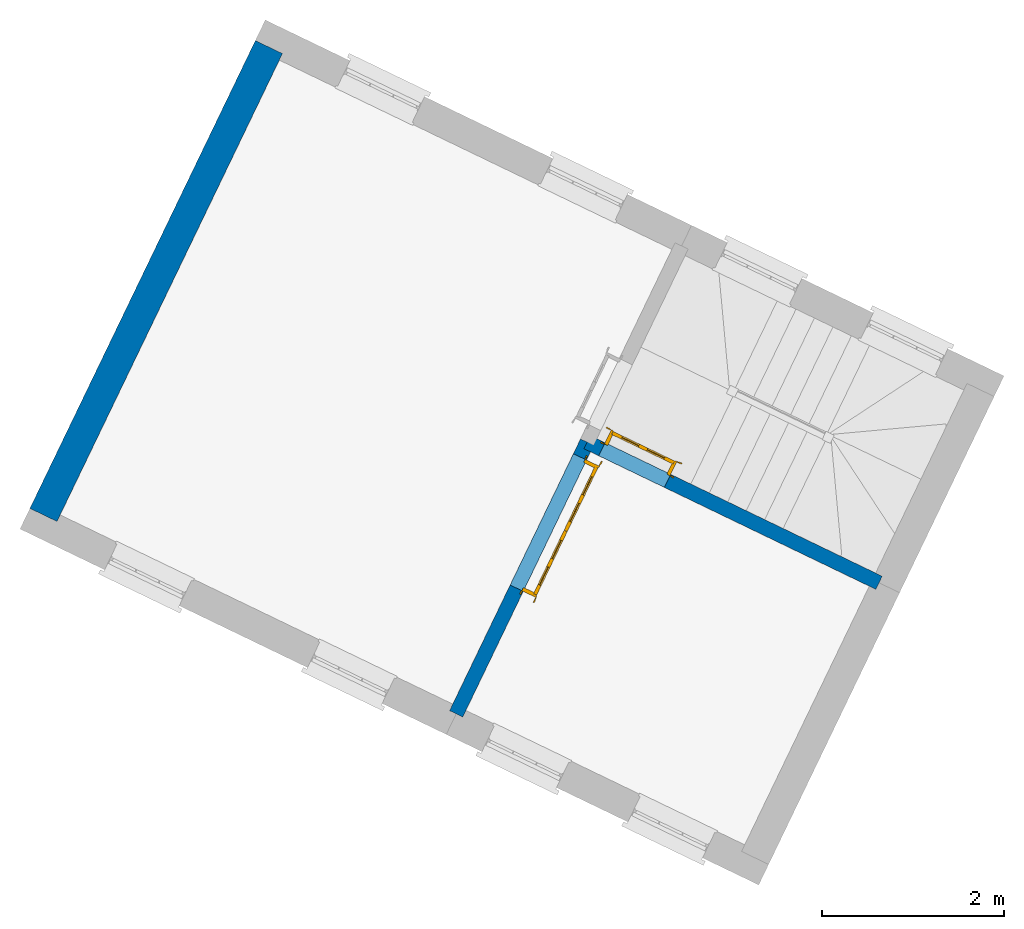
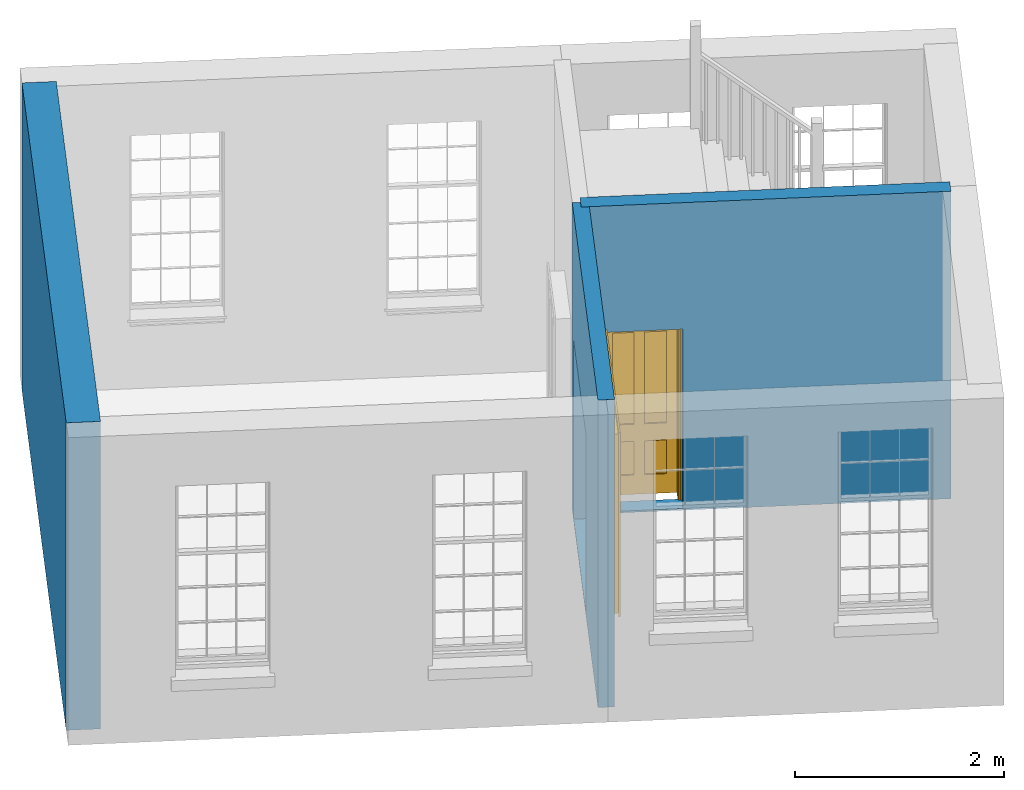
# One storey, part 2 of 3: 3 walls, 2 doors, 2 openings.
"""IFC4 building model written with IfcOpenShell, lengths in metres."""

from ifc_helpers import new_model, si_unit, frame, origin, origin_with_axes, place, context, subcontext, project, spatial, polyline, outline, extrude, faceted_brep, source, transform, mapped, material, layer, layer_set, layer_usage, type_object, type_shapes, element, fill, save


model = new_model("IFC4")

# Units and contexts
model_context = context("Model", 3, world=origin_with_axes())
body_context = subcontext(model_context, "Body", "Model", "MODEL_VIEW")
ifc_project = project(units=[si_unit("PLANEANGLEUNIT", "RADIAN"), si_unit("MASSUNIT", "GRAM", prefix="KILO"), si_unit("FORCEUNIT", "NEWTON", prefix="KILO"), si_unit("LENGTHUNIT", "METRE"), si_unit("AREAUNIT", "SQUARE_METRE"), si_unit("VOLUMEUNIT", "CUBIC_METRE")], contexts=[model_context, model_context])

# Sites, building, storey
site_1_placement = place(None, origin_with_axes())
site_1 = spatial("IfcSite", under=ifc_project, at=site_1_placement, Name="Tamar")
site_2_placement = place(site_1_placement, origin_with_axes())
site_2 = spatial("IfcSite", under=site_1, at=site_2_placement, Name="Site plot-1", CompositionType="ELEMENT")
building_placement = place(None, origin_with_axes())
building = spatial("IfcBuilding", under=site_2, at=building_placement, Name="Building plot-1", CompositionType="ELEMENT")
storey_placement = place(None, frame((0.0, 0.0, 29.6), z_axis=(0.0, 0.0, 1.0), x_axis=(1.0, 0.0, 0.0)))
storey = spatial("IfcBuildingStorey", under=building, at=storey_placement, Name="plot-1 1", CompositionType="ELEMENT", Elevation=29.6)

# Wall
ifc_material_1 = material(Name="Masonry")
ifc_layer_1 = layer(ifc_material_1, 0.33, ventilated=False)
ifc_layer_set_1 = layer_set([ifc_layer_1], Name="party_0.08_0.25")
ifc_layer_usage_1 = layer_usage(ifc_layer_set_1, "AXIS2", "POSITIVE", -0.25)
wall_type_1 = type_object("IfcWallType", Name="party_0.08_0.25", PredefinedType="SOLIDWALL", material=ifc_layer_set_1)
wall_1_placement = place(storey_placement, frame((221.848736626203, 299.862672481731, 0.0), z_axis=(0.0, 0.0, 1.0), x_axis=(-0.434117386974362, -0.900856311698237, 0.0)))
element("IfcWall", 1, at=wall_1_placement, inside=storey, type_object=wall_type_1, material=ifc_layer_usage_1, Name="party", context=body_context, shape_type="SweptSolid", body=[
    extrude(outline(polyline([(-2.43863115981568e-14, 0.0799999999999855), (1.03403822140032e-14, -0.249999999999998), (5.70093486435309, -0.249999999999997), (5.70093486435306, 0.0799999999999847), (-2.43863115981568e-14, 0.0799999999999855)])), origin_with_axes(), (0.0, 0.0, 1.0), 3.6),
])

# Wall, opening, door
ifc_material_2 = material(Name="Masonry")
ifc_layer_2 = layer(ifc_material_2, 0.16, ventilated=False)
ifc_layer_set_2 = layer_set([ifc_layer_2], Name="interior_0.08_0.08")
ifc_layer_usage_2 = layer_usage(ifc_layer_set_2, "AXIS2", "POSITIVE", -0.08)
wall_type_2 = type_object("IfcWallType", Name="interior_0.08_0.08", PredefinedType="SOLIDWALL", material=ifc_layer_set_2)
wall_2_placement = place(storey_placement, frame((225.264320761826, 295.563557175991, 0.0), z_axis=(0.0, 0.0, 1.0), x_axis=(0.900856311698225, -0.434117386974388, 0.0)))
wall_2 = element("IfcWall", 2, at=wall_2_placement, inside=storey, type_object=wall_type_2, material=ifc_layer_usage_2, Name="interior", context=body_context, shape_type="SweptSolid", body=[
    extrude(outline(polyline([(-1.33888319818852e-14, 0.0800000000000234), (1.3343507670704e-14, -0.0800000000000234), (3.55672877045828, -0.0800000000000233), (3.55672877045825, 0.0800000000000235), (-1.33888319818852e-14, 0.0800000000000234)])), origin_with_axes(), (0.0, 0.0, 1.0), 3.6),
])
opening_1_placement = place(wall_2_placement, frame((0.179999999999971, 0.0, 0.0199999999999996)))
opening_1 = element("IfcOpeningElement", 3, at=opening_1_placement, cuts=wall_2, Name="My Opening", ObjectType="Opening", context=body_context, shape_type="SweptSolid", body=[
    extrude(outline(polyline([(0.0, -0.0999999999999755), (0.800000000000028, -0.100000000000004), (0.800000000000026, 1.1), (-2.44249065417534e-15, 1.10000000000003), (0.0, -0.0999999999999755)])), origin_with_axes(), (0.0, 0.0, 1.0), 2.1),
])
door_type_1 = type_object("IfcDoorType", Name="door_inside", OperationType="SINGLE_SWING_LEFT", PredefinedType="NOTDEFINED")
shared_shape_1 = source(origin(), body_context, "Body", "Brep", [
    faceted_brep([(0.773, 0.33, 1.895), (0.66, 0.33, 1.895), (0.66, 0.33, 2.073), (0.773, 0.33, 2.073), (0.773, 0.33, 0.82), (0.66, 0.33, 0.82), (0.45, 0.33, 1.895), (0.45, 0.33, 2.073), (0.773, 0.33, 0.62), (0.66, 0.33, 0.62), (0.66, 0.315, 0.82), (0.66, 0.315, 1.895), (0.45, 0.315, 1.895), (0.35, 0.33, 1.895), (0.35, 0.33, 2.073), (0.773, 0.33, 0.225), (0.66, 0.33, 0.225), (0.45, 0.33, 0.62), (0.45, 0.33, 0.82), (0.45, 0.315, 0.82), (0.35, 0.33, 0.82), (0.14, 0.33, 2.073), (0.14, 0.33, 1.895), (0.773, 0.33, 0.0), (0.66, 0.33, 0.0), (0.66, 0.315, 0.225), (0.66, 0.315, 0.62), (0.45, 0.315, 0.62), (0.35, 0.33, 0.62), (0.35, 0.315, 0.82), (0.35, 0.315, 1.895), (0.14, 0.315, 1.895), (0.027, 0.33, 2.073), (0.027, 0.33, 1.895), (0.773, 0.292, 0.0), (0.66, 0.292, 0.0), (0.45, 0.33, 0.0), (0.45, 0.33, 0.225), (0.45, 0.315, 0.225), (0.35, 0.33, 0.225), (0.14, 0.33, 0.82), (0.14, 0.33, 0.62), (0.14, 0.315, 0.82), (0.027, 0.33, 0.82), (0.773, 0.292, 0.225), (0.66, 0.292, 0.225), (0.45, 0.292, 0.0), (0.35, 0.33, 0.0), (0.35, 0.315, 0.225), (0.35, 0.315, 0.62), (0.14, 0.315, 0.62), (0.027, 0.33, 0.62), (0.773, 0.292, 0.62), (0.66, 0.292, 0.62), (0.45, 0.292, 0.225), (0.35, 0.292, 0.0), (0.14, 0.33, 0.225), (0.14, 0.33, 0.0), (0.14, 0.315, 0.225), (0.027, 0.33, 0.225), (0.773, 0.292, 0.82), (0.66, 0.292, 0.82), (0.66, 0.307, 0.62), (0.66, 0.307, 0.225), (0.45, 0.307, 0.225), (0.35, 0.292, 0.225), (0.14, 0.292, 0.0), (0.027, 0.33, 0.0), (0.773, 0.292, 1.895), (0.66, 0.292, 1.895), (0.45, 0.292, 0.62), (0.45, 0.292, 0.82), (0.45, 0.307, 0.62), (0.35, 0.292, 0.62), (0.14, 0.292, 0.225), (0.027, 0.292, 0.0), (0.773, 0.292, 2.073), (0.66, 0.292, 2.073), (0.66, 0.307, 1.895), (0.66, 0.307, 0.82), (0.45, 0.307, 0.82), (0.35, 0.292, 0.82), (0.35, 0.307, 0.62), (0.35, 0.307, 0.225), (0.14, 0.307, 0.225), (0.027, 0.292, 0.225), (0.45, 0.292, 1.895), (0.45, 0.292, 2.073), (0.45, 0.307, 1.895), (0.35, 0.292, 1.895), (0.14, 0.292, 0.82), (0.14, 0.292, 0.62), (0.14, 0.307, 0.62), (0.027, 0.292, 0.62), (0.35, 0.292, 2.073), (0.35, 0.307, 1.895), (0.35, 0.307, 0.82), (0.14, 0.307, 0.82), (0.027, 0.292, 0.82), (0.14, 0.292, 2.073), (0.14, 0.292, 1.895), (0.14, 0.307, 1.895), (0.027, 0.292, 1.895), (0.027, 0.292, 2.073), (0.02, 0.335, 0.0), (0.005, 0.34, 0.0), (0.005, 0.34, 2.095), (0.02, 0.335, 2.08), (0.02, 0.33, 0.0), (0.0, 0.335, 0.0), (0.0, 0.335, 2.1), (0.795, 0.34, 2.095), (0.78, 0.335, 2.08), (0.02, 0.33, 2.08), (0.0, 0.33, 0.0), (-0.032, 0.345, 0.0), (-0.032, 0.345, 2.132), (0.8, 0.335, 2.1), (0.795, 0.34, 0.0), (0.78, 0.335, 0.0), (0.78, 0.33, 2.08), (0.04, 0.29, 0.0), (0.025, 0.29, 0.0), (0.025, 0.29, 2.075), (0.04, 0.29, 2.06), (-0.04, 0.34, 0.0), (-0.04, 0.34, 2.14), (0.832, 0.345, 2.132), (0.8, 0.335, 0.0), (0.78, 0.33, 0.0), (0.8, 0.33, 0.0), (0.86, 0.33, 0.0), (0.86, 0.33, 2.16), (0.8, 0.33, 2.1), (-0.06, 0.33, 2.16), (0.0, 0.33, 2.1), (-0.06, 0.33, 0.0), (-0.04, 0.345, 0.0), (-0.04, 0.345, 2.14), (0.84, 0.34, 2.14), (0.832, 0.345, 0.0), (0.84, 0.34, 0.0), (0.86, 0.345, 0.0), (0.86, 0.345, 2.16), (-0.06, 0.345, 2.16), (-0.06, 0.345, 0.0), (0.84, 0.345, 0.0), (0.84, 0.345, 2.14), (-0.025, 0.155, 0.0), (-0.025, 0.16, 0.0), (-0.025, 0.16, 2.125), (-0.025, 0.155, 2.125), (-0.017, 0.155, 0.0), (-0.017, 0.155, 2.117), (0.825, 0.16, 2.125), (0.825, 0.155, 2.125), (0.825, 0.155, 0.0), (0.845, 0.155, 0.0), (-0.045, 0.155, 2.145), (-0.045, 0.155, 0.0), (0.845, 0.155, 2.145), (0.015, 0.165, 0.0), (0.015, 0.165, 2.085), (0.817, 0.155, 2.117), (0.825, 0.16, 0.0), (0.845, 0.17, 0.0), (0.845, 0.17, 2.145), (-0.045, 0.17, 2.145), (-0.045, 0.17, 0.0), (0.02, 0.16, 0.0), (0.02, 0.16, 2.08), (0.785, 0.165, 2.085), (0.817, 0.155, 0.0), (0.8, 0.17, 0.0), (0.8, 0.17, 2.1), (0.0, 0.17, 2.1), (0.0, 0.17, 0.0), (0.035, 0.165, 0.0), (0.035, 0.165, 2.065), (0.78, 0.16, 2.08), (0.785, 0.165, 0.0), (0.775, 0.29, 2.075), (0.76, 0.29, 2.06), (0.035, 0.17, 2.065), (0.035, 0.17, 0.0), (0.765, 0.165, 2.065), (0.78, 0.16, 0.0), (0.765, 0.17, 0.0), (0.765, 0.17, 2.065), (0.765, 0.165, 0.0), (0.04, 0.17, 2.06), (0.04, 0.17, 0.0), (0.76, 0.17, 2.06), (0.76, 0.17, 0.0), (0.76, 0.29, 0.0), (0.775, 0.29, 0.0), (0.025, 0.33, 0.0), (0.025, 0.33, 2.075), (0.775, 0.33, 0.0), (0.775, 0.33, 2.075)], [[[0, 1, 2, 3]], [[1, 0, 4, 5]], [[1, 6, 7, 2]], [[8, 9, 5, 4]], [[1, 5, 10, 11]], [[6, 1, 11, 12]], [[6, 13, 14, 7]], [[15, 16, 9, 8]], [[9, 17, 18, 5]], [[5, 18, 19, 10]], [[10, 19, 12, 11]], [[18, 6, 12, 19]], [[18, 20, 13, 6]], [[21, 14, 13, 22]], [[23, 24, 16, 15]], [[9, 16, 25, 26]], [[17, 9, 26, 27]], [[17, 28, 20, 18]], [[13, 20, 29, 30]], [[22, 13, 30, 31]], [[32, 21, 22, 33]], [[34, 35, 24, 23]], [[24, 36, 37, 16]], [[16, 37, 38, 25]], [[25, 38, 27, 26]], [[37, 17, 27, 38]], [[37, 39, 28, 17]], [[40, 20, 28, 41]], [[20, 40, 42, 29]], [[31, 30, 29, 42]], [[40, 22, 31, 42]], [[33, 22, 40, 43]], [[35, 34, 44, 45]], [[35, 46, 36, 24]], [[36, 47, 39, 37]], [[28, 39, 48, 49]], [[41, 28, 49, 50]], [[43, 40, 41, 51]], [[45, 44, 52, 53]], [[46, 35, 45, 54]], [[46, 55, 47, 36]], [[56, 39, 47, 57]], [[39, 56, 58, 48]], [[50, 49, 48, 58]], [[56, 41, 50, 58]], [[51, 41, 56, 59]], [[53, 52, 60, 61]], [[45, 53, 62, 63]], [[54, 45, 63, 64]], [[55, 46, 54, 65]], [[55, 66, 57, 47]], [[59, 56, 57, 67]], [[61, 60, 68, 69]], [[70, 53, 61, 71]], [[53, 70, 72, 62]], [[72, 64, 63, 62]], [[70, 54, 64, 72]], [[65, 54, 70, 73]], [[65, 74, 66, 55]], [[67, 57, 66, 75]], [[69, 68, 76, 77]], [[61, 69, 78, 79]], [[71, 61, 79, 80]], [[73, 70, 71, 81]], [[65, 73, 82, 83]], [[74, 65, 83, 84]], [[74, 85, 75, 66]], [[86, 69, 77, 87]], [[69, 86, 88, 78]], [[88, 80, 79, 78]], [[86, 71, 80, 88]], [[81, 71, 86, 89]], [[73, 81, 90, 91]], [[73, 91, 92, 82]], [[83, 82, 92, 84]], [[91, 74, 84, 92]], [[91, 93, 85, 74]], [[89, 86, 87, 94]], [[81, 89, 95, 96]], [[90, 81, 96, 97]], [[90, 98, 93, 91]], [[94, 99, 100, 89]], [[89, 100, 101, 95]], [[101, 97, 96, 95]], [[100, 90, 97, 101]], [[100, 102, 98, 90]], [[99, 103, 102, 100]], [[32, 103, 99, 21]], [[102, 103, 32, 33]], [[98, 102, 33, 43]], [[21, 99, 94, 14]], [[94, 87, 7, 14]], [[7, 87, 77, 2]], [[76, 3, 2, 77]], [[43, 51, 93, 98]], [[51, 59, 85, 93]], [[67, 75, 85, 59]], [[34, 23, 15, 44]], [[44, 15, 8, 52]], [[52, 8, 4, 60]], [[0, 68, 60, 4]], [[0, 3, 76, 68]], [[104, 105, 106, 107]], [[104, 108, 109, 105]], [[105, 109, 110, 106]], [[107, 106, 111, 112]], [[107, 113, 108, 104]], [[114, 109, 108]], [[109, 115, 116, 110]], [[106, 110, 117, 111]], [[112, 111, 118, 119]], [[113, 107, 112, 120]], [[121, 122, 123, 124]], [[115, 109, 114, 125]], [[115, 125, 126, 116]], [[110, 116, 127, 117]], [[111, 117, 128, 118]], [[118, 128, 129, 119]], [[120, 112, 119, 129]], [[130, 129, 128]], [[130, 131, 132, 133]], [[133, 132, 134, 135]], [[135, 134, 136, 114]], [[136, 125, 114]], [[125, 137, 138, 126]], [[116, 126, 139, 127]], [[117, 127, 140, 128]], [[141, 130, 128, 140]], [[131, 130, 141]], [[131, 142, 143, 132]], [[132, 143, 144, 134]], [[134, 144, 145, 136]], [[137, 125, 136, 145]], [[143, 142, 146]], [[143, 146, 147]], [[137, 145, 144]], [[143, 147, 138]], [[138, 137, 144]], [[143, 138, 144]], [[126, 138, 147, 139]], [[127, 139, 141, 140]], [[142, 131, 141, 146]], [[139, 147, 146, 141]], [[148, 149, 150, 151]], [[149, 152, 153, 150]], [[151, 150, 154, 155]], [[155, 156, 157]], [[158, 159, 148]], [[158, 148, 151]], [[155, 157, 160]], [[158, 151, 155]], [[155, 160, 158]], [[152, 161, 162, 153]], [[150, 153, 163, 154]], [[155, 154, 164, 156]], [[156, 164, 165, 157]], [[157, 165, 166, 160]], [[160, 166, 167, 158]], [[158, 167, 168, 159]], [[161, 169, 170, 162]], [[153, 162, 171, 163]], [[154, 163, 172, 164]], [[165, 164, 173]], [[165, 173, 174, 166]], [[166, 174, 175, 167]], [[167, 175, 176, 168]], [[169, 177, 178, 170]], [[162, 170, 179, 171]], [[163, 171, 180, 172]], [[172, 180, 173, 164]], [[124, 123, 181, 182]], [[183, 178, 177, 184]], [[170, 178, 185, 179]], [[171, 179, 186, 180]], [[187, 173, 180]], [[185, 188, 187, 189]], [[188, 185, 178, 183]], [[179, 185, 189, 186]], [[189, 187, 180, 186]], [[190, 183, 184, 191]], [[192, 188, 183, 190]], [[191, 184, 122, 121]], [[124, 190, 191, 121]], [[193, 187, 188, 192]], [[182, 192, 190, 124]], [[184, 176, 122]], [[194, 195, 187, 193]], [[192, 182, 194, 193]], [[161, 176, 184]], [[114, 108, 122, 176]], [[173, 187, 195]], [[152, 149, 176, 161]], [[169, 161, 184, 177]], [[196, 122, 108]], [[176, 175, 135, 114]], [[173, 195, 129, 130]], [[176, 149, 168]], [[123, 122, 196, 197]], [[196, 108, 113, 197]], [[175, 174, 133, 135]], [[198, 129, 195]], [[133, 174, 173, 130]], [[159, 168, 149, 148]], [[181, 123, 197, 199]], [[197, 113, 120, 199]], [[199, 120, 129, 198]], [[195, 181, 199, 198]], [[195, 194, 182, 181]]]),
])
type_shapes(door_type_1, [shared_shape_1])
door_1_placement = place(storey_placement, frame((225.383063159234, 295.395330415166, 0.0199999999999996), z_axis=(0.0, 0.0, 1.0), x_axis=(0.720685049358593, -0.347293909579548, 0.0)))
door_1 = element("IfcDoor", 4, at=door_1_placement, inside=storey, type_object=door_type_1, Name="kitchen inside door", OverallHeight=2.1, OverallWidth=0.8, context=body_context, shape_type="MappedRepresentation", body=[
    mapped(shared_shape_1, transform((0.0, 0.0, 0.0), scale=1.0)),
])
fill(opening_1, door_1)

wall_3_placement = place(storey_placement, frame((225.264320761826, 295.563557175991, 0.0), z_axis=(0.0, 0.0, 1.0), x_axis=(-0.434117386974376, -0.900856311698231, 0.0)))
wall_3 = element("IfcWall", 5, at=wall_3_placement, inside=storey, type_object=wall_type_2, material=ifc_layer_usage_2, Name="interior", context=body_context, shape_type="SweptSolid", body=[
    extrude(outline(polyline([(2.56358969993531e-14, 0.0800000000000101), (-2.56456941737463e-14, -0.0800000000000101), (3.3108141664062, -0.0800000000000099), (3.31081416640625, 0.0800000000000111), (2.56358969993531e-14, 0.0800000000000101)])), origin_with_axes(), (0.0, 0.0, 1.0), 3.6),
])
opening_2_placement = place(wall_3_placement, frame((0.180000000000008, 0.0, 0.0199999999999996)))
opening_2 = element("IfcOpeningElement", 6, at=opening_2_placement, cuts=wall_3, Name="My Opening", ObjectType="Opening", context=body_context, shape_type="SweptSolid", body=[
    extrude(outline(polyline([(0.0, -0.0999999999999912), (1.59999999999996, -0.0999999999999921), (1.59999999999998, 1.09999999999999), (2.56461518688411e-14, 1.09999999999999), (0.0, -0.0999999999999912)])), origin_with_axes(), (0.0, 0.0, 1.0), 2.1),
])
door_type_2 = type_object("IfcDoorType", Name="door_inside_double", OperationType="SINGLE_SWING_LEFT", PredefinedType="NOTDEFINED")
shared_shape_2 = source(origin(), body_context, "Body", "Brep", [
    faceted_brep([(0.14, 0.307, 1.895), (0.14, 0.307, 0.82), (0.363, 0.307, 0.82), (0.363, 0.307, 1.895), (0.14, 0.292, 1.895), (0.14, 0.292, 0.82), (0.363, 0.292, 0.82), (0.363, 0.292, 1.895), (0.027, 0.292, 1.895), (0.027, 0.292, 0.82), (0.363, 0.292, 0.62), (0.14, 0.292, 0.62), (0.463, 0.292, 0.82), (0.463, 0.292, 1.895), (0.363, 0.292, 2.073), (0.14, 0.292, 2.073), (0.027, 0.292, 2.073), (0.027, 0.33, 1.895), (0.027, 0.33, 0.82), (0.027, 0.292, 0.62), (0.463, 0.292, 0.62), (0.14, 0.307, 0.62), (0.363, 0.307, 0.62), (0.463, 0.307, 0.82), (0.463, 0.307, 1.895), (0.463, 0.292, 2.073), (0.14, 0.33, 2.073), (0.363, 0.33, 2.073), (0.027, 0.33, 2.073), (0.14, 0.33, 1.895), (0.14, 0.33, 0.82), (0.027, 0.33, 0.62), (0.027, 0.292, 0.225), (0.14, 0.292, 0.225), (0.363, 0.292, 0.225), (0.463, 0.292, 0.225), (0.686, 0.292, 0.62), (0.686, 0.292, 0.82), (0.14, 0.307, 0.225), (0.363, 0.307, 0.225), (0.686, 0.307, 0.82), (0.686, 0.307, 1.895), (0.686, 0.292, 1.895), (0.686, 0.292, 2.073), (0.463, 0.33, 2.073), (0.363, 0.33, 1.895), (0.14, 0.315, 1.895), (0.14, 0.315, 0.82), (0.14, 0.33, 0.62), (0.027, 0.33, 0.225), (0.027, 0.292, 0.0), (0.14, 0.292, 0.0), (0.363, 0.292, 0.0), (0.463, 0.292, 0.0), (0.463, 0.307, 0.225), (0.463, 0.307, 0.62), (0.686, 0.307, 0.62), (0.799, 0.292, 0.62), (0.799, 0.292, 0.82), (0.799, 0.292, 1.895), (0.799, 0.292, 2.073), (0.686, 0.33, 2.073), (0.463, 0.33, 1.895), (0.363, 0.315, 1.895), (0.363, 0.315, 0.82), (0.363, 0.33, 0.82), (0.363, 0.33, 0.62), (0.14, 0.33, 0.225), (0.027, 0.33, 0.0), (0.14, 0.33, 0.0), (0.363, 0.33, 0.0), (0.463, 0.33, 0.0), (0.686, 0.292, 0.0), (0.686, 0.292, 0.225), (0.686, 0.307, 0.225), (0.799, 0.292, 0.225), (0.799, 0.33, 0.62), (0.799, 0.33, 0.82), (0.799, 0.33, 1.895), (0.799, 0.33, 2.073), (0.686, 0.33, 1.895), (0.463, 0.33, 0.82), (0.463, 0.33, 0.62), (0.363, 0.315, 0.62), (0.14, 0.315, 0.62), (0.14, 0.315, 0.225), (0.363, 0.33, 0.225), (0.463, 0.33, 0.225), (0.686, 0.33, 0.0), (0.799, 0.292, 0.0), (0.799, 0.33, 0.225), (0.686, 0.33, 0.62), (0.686, 0.33, 0.82), (0.686, 0.315, 1.895), (0.463, 0.315, 1.895), (0.463, 0.315, 0.82), (0.363, 0.315, 0.225), (0.686, 0.33, 0.225), (0.799, 0.33, 0.0), (0.686, 0.315, 0.82), (0.463, 0.315, 0.62), (0.463, 0.315, 0.225), (0.686, 0.315, 0.62), (0.686, 0.315, 0.225), (1.46, 0.33, 1.895), (1.237, 0.33, 1.895), (1.237, 0.33, 2.073), (1.46, 0.33, 2.073), (1.46, 0.315, 1.895), (1.237, 0.315, 1.895), (1.137, 0.33, 1.895), (1.137, 0.33, 2.073), (1.237, 0.292, 2.073), (1.46, 0.292, 2.073), (1.573, 0.33, 1.895), (1.573, 0.33, 2.073), (1.46, 0.33, 0.82), (1.46, 0.315, 0.82), (1.237, 0.315, 0.82), (1.237, 0.33, 0.82), (1.137, 0.33, 0.82), (0.914, 0.33, 2.073), (0.914, 0.33, 1.895), (1.137, 0.292, 2.073), (1.237, 0.292, 1.895), (1.46, 0.292, 1.895), (1.573, 0.292, 2.073), (1.573, 0.33, 0.82), (1.573, 0.292, 1.895), (1.237, 0.33, 0.62), (1.137, 0.33, 0.62), (1.137, 0.315, 0.82), (1.137, 0.315, 1.895), (0.914, 0.292, 2.073), (0.914, 0.315, 1.895), (0.801, 0.33, 2.073), (0.801, 0.33, 1.895), (1.137, 0.292, 1.895), (1.237, 0.307, 1.895), (1.46, 0.307, 1.895), (1.573, 0.292, 0.82), (1.573, 0.33, 0.62), (1.46, 0.33, 0.62), (1.237, 0.33, 0.225), (1.137, 0.33, 0.225), (0.914, 0.33, 0.82), (0.914, 0.33, 0.62), (0.914, 0.315, 0.82), (0.801, 0.292, 2.073), (0.914, 0.292, 1.895), (0.801, 0.33, 0.82), (0.801, 0.292, 1.895), (1.137, 0.292, 0.82), (1.237, 0.292, 0.82), (1.237, 0.307, 0.82), (1.46, 0.307, 0.82), (1.46, 0.292, 0.82), (1.573, 0.292, 0.62), (1.573, 0.33, 0.225), (1.46, 0.33, 0.225), (1.46, 0.315, 0.62), (1.237, 0.315, 0.62), (1.237, 0.33, 0.0), (1.137, 0.33, 0.0), (1.137, 0.315, 0.225), (1.137, 0.315, 0.62), (1.237, 0.315, 0.225), (0.914, 0.315, 0.62), (0.801, 0.33, 0.62), (0.914, 0.307, 1.895), (1.137, 0.307, 1.895), (0.801, 0.292, 0.82), (1.137, 0.292, 0.62), (1.237, 0.292, 0.62), (1.137, 0.307, 0.82), (1.46, 0.292, 0.62), (1.573, 0.292, 0.225), (1.573, 0.33, 0.0), (1.46, 0.33, 0.0), (1.46, 0.315, 0.225), (1.237, 0.292, 0.0), (1.137, 0.292, 0.0), (0.914, 0.33, 0.225), (0.914, 0.33, 0.0), (0.914, 0.315, 0.225), (0.801, 0.33, 0.225), (0.801, 0.292, 0.62), (0.914, 0.292, 0.82), (0.914, 0.307, 0.82), (1.137, 0.292, 0.225), (1.237, 0.292, 0.225), (0.914, 0.292, 0.62), (1.46, 0.292, 0.225), (1.573, 0.292, 0.0), (1.46, 0.292, 0.0), (0.914, 0.292, 0.0), (0.801, 0.33, 0.0), (0.801, 0.292, 0.225), (1.237, 0.307, 0.225), (1.237, 0.307, 0.62), (1.137, 0.307, 0.62), (1.137, 0.307, 0.225), (1.46, 0.307, 0.62), (0.914, 0.307, 0.62), (1.46, 0.307, 0.225), (0.914, 0.292, 0.225), (0.801, 0.292, 0.0), (0.914, 0.307, 0.225), (0.02, 0.335, 0.0), (0.005, 0.34, 0.0), (0.005, 0.34, 2.095), (0.02, 0.335, 2.08), (0.02, 0.33, 0.0), (0.0, 0.335, 0.0), (0.0, 0.335, 2.1), (1.595, 0.34, 2.095), (1.58, 0.335, 2.08), (0.02, 0.33, 2.08), (0.0, 0.33, 0.0), (-0.032, 0.345, 0.0), (-0.032, 0.345, 2.132), (1.6, 0.335, 2.1), (1.595, 0.34, 0.0), (1.58, 0.335, 0.0), (1.58, 0.33, 2.08), (0.025, 0.33, 0.0), (0.025, 0.33, 2.075), (-0.04, 0.34, 0.0), (0.025, 0.29, 0.0), (0.0, 0.17, 0.0), (-0.04, 0.34, 2.14), (1.632, 0.345, 2.132), (1.6, 0.335, 0.0), (1.58, 0.33, 0.0), (1.575, 0.33, 2.075), (0.025, 0.29, 2.075), (-0.06, 0.33, 0.0), (0.035, 0.17, 0.0), (0.0, 0.17, 2.1), (0.0, 0.33, 2.1), (-0.04, 0.345, 0.0), (-0.04, 0.345, 2.14), (1.64, 0.34, 2.14), (1.632, 0.345, 0.0), (1.6, 0.33, 0.0), (1.575, 0.33, 0.0), (1.575, 0.29, 2.075), (0.04, 0.29, 0.0), (0.04, 0.29, 2.06), (-0.06, 0.345, 0.0), (-0.06, 0.33, 2.16), (0.015, 0.165, 0.0), (0.04, 0.17, 0.0), (-0.045, 0.17, 2.145), (-0.045, 0.17, 0.0), (1.6, 0.17, 2.1), (1.6, 0.33, 2.1), (-0.06, 0.345, 2.16), (1.64, 0.345, 2.14), (1.64, 0.34, 0.0), (1.6, 0.17, 0.0), (1.575, 0.29, 0.0), (1.56, 0.29, 2.06), (0.04, 0.17, 2.06), (1.66, 0.33, 2.16), (-0.017, 0.155, 0.0), (-0.025, 0.16, 0.0), (0.02, 0.16, 0.0), (0.035, 0.165, 0.0), (0.035, 0.17, 2.065), (1.645, 0.17, 2.145), (-0.045, 0.155, 2.145), (-0.045, 0.155, 0.0), (1.66, 0.345, 2.16), (1.64, 0.345, 0.0), (1.66, 0.33, 0.0), (1.565, 0.17, 0.0), (1.56, 0.29, 0.0), (1.56, 0.17, 2.06), (-0.017, 0.155, 2.117), (-0.025, 0.16, 2.125), (0.015, 0.165, 2.085), (0.02, 0.16, 2.08), (0.035, 0.165, 2.065), (1.565, 0.17, 2.065), (1.645, 0.17, 0.0), (1.645, 0.155, 2.145), (-0.025, 0.155, 0.0), (1.66, 0.345, 0.0), (1.585, 0.165, 0.0), (1.56, 0.17, 0.0), (1.617, 0.155, 2.117), (1.625, 0.16, 2.125), (-0.025, 0.155, 2.125), (1.585, 0.165, 2.085), (1.58, 0.16, 2.08), (1.565, 0.165, 2.065), (1.625, 0.16, 0.0), (1.645, 0.155, 0.0), (1.625, 0.155, 2.125), (1.617, 0.155, 0.0), (1.565, 0.165, 0.0), (1.58, 0.16, 0.0), (1.625, 0.155, 0.0)], [[[0, 1, 2, 3]], [[1, 0, 4, 5]], [[2, 1, 5, 6]], [[6, 7, 3, 2]], [[7, 4, 0, 3]], [[4, 8, 9, 5]], [[10, 6, 5, 11]], [[6, 12, 13, 7]], [[14, 15, 4, 7]], [[15, 16, 8, 4]], [[9, 8, 17, 18]], [[5, 9, 19, 11]], [[10, 20, 12, 6]], [[10, 11, 21, 22]], [[13, 12, 23, 24]], [[7, 13, 25, 14]], [[26, 15, 14, 27]], [[28, 16, 15, 26]], [[8, 16, 28, 17]], [[17, 29, 30, 18]], [[18, 31, 19, 9]], [[11, 19, 32, 33]], [[34, 35, 20, 10]], [[20, 36, 37, 12]], [[11, 33, 38, 21]], [[39, 22, 21, 38]], [[34, 10, 22, 39]], [[12, 37, 40, 23]], [[24, 23, 40, 41]], [[42, 13, 24, 41]], [[13, 42, 43, 25]], [[14, 25, 44, 27]], [[26, 27, 45, 29]], [[28, 26, 29, 17]], [[30, 29, 46, 47]], [[18, 30, 48, 31]], [[31, 49, 32, 19]], [[33, 32, 50, 51]], [[52, 53, 35, 34]], [[20, 35, 54, 55]], [[36, 20, 55, 56]], [[36, 57, 58, 37]], [[33, 34, 39, 38]], [[37, 42, 41, 40]], [[42, 59, 60, 43]], [[44, 25, 43, 61]], [[62, 45, 27, 44]], [[29, 45, 63, 46]], [[46, 63, 64, 47]], [[65, 30, 47, 64]], [[30, 65, 66, 48]], [[31, 48, 67, 49]], [[68, 50, 32, 49]], [[68, 69, 51, 50]], [[34, 33, 51, 52]], [[53, 52, 70, 71]], [[53, 72, 73, 35]], [[35, 73, 74, 54]], [[55, 54, 74, 56]], [[73, 36, 56, 74]], [[73, 75, 57, 36]], [[57, 76, 77, 58]], [[37, 58, 59, 42]], [[78, 79, 60, 59]], [[60, 79, 61, 43]], [[80, 62, 44, 61]], [[81, 65, 45, 62]], [[45, 65, 64, 63]], [[82, 66, 65, 81]], [[48, 66, 83, 84]], [[67, 48, 84, 85]], [[49, 67, 69, 68]], [[52, 51, 69, 70]], [[71, 70, 86, 87]], [[72, 53, 71, 88]], [[72, 89, 75, 73]], [[75, 90, 76, 57]], [[76, 91, 92, 77]], [[78, 59, 58, 77]], [[78, 80, 61, 79]], [[62, 80, 93, 94]], [[81, 62, 94, 95]], [[87, 86, 66, 82]], [[91, 82, 81, 92]], [[66, 86, 96, 83]], [[84, 83, 96, 85]], [[86, 67, 85, 96]], [[67, 86, 70, 69]], [[88, 71, 87, 97]], [[89, 72, 88, 98]], [[89, 98, 90, 75]], [[90, 97, 91, 76]], [[80, 78, 77, 92]], [[80, 92, 99, 93]], [[99, 95, 94, 93]], [[92, 81, 95, 99]], [[87, 82, 100, 101]], [[82, 91, 102, 100]], [[97, 87, 101, 103]], [[98, 88, 97, 90]], [[91, 97, 103, 102]], [[103, 101, 100, 102]], [[104, 105, 106, 107]], [[105, 104, 108, 109]], [[105, 110, 111, 106]], [[106, 112, 113, 107]], [[114, 104, 107, 115]], [[104, 116, 117, 108]], [[117, 118, 109, 108]], [[119, 105, 109, 118]], [[119, 120, 110, 105]], [[121, 111, 110, 122]], [[123, 112, 106, 111]], [[124, 125, 113, 112]], [[126, 115, 107, 113]], [[104, 114, 127, 116]], [[114, 115, 126, 128]], [[116, 119, 118, 117]], [[129, 130, 120, 119]], [[110, 120, 131, 132]], [[121, 133, 123, 111]], [[122, 110, 132, 134]], [[135, 121, 122, 136]], [[137, 124, 112, 123]], [[125, 124, 138, 139]], [[125, 128, 126, 113]], [[114, 128, 140, 127]], [[141, 142, 116, 127]], [[142, 129, 119, 116]], [[143, 144, 130, 129]], [[145, 120, 130, 146]], [[120, 145, 147, 131]], [[134, 132, 131, 147]], [[135, 148, 133, 121]], [[123, 133, 149, 137]], [[145, 122, 134, 147]], [[136, 122, 145, 150]], [[151, 148, 135, 136]], [[152, 153, 124, 137]], [[124, 153, 154, 138]], [[138, 154, 155, 139]], [[156, 125, 139, 155]], [[156, 140, 128, 125]], [[157, 141, 127, 140]], [[158, 159, 142, 141]], [[129, 142, 160, 161]], [[162, 163, 144, 143]], [[130, 144, 164, 165]], [[143, 129, 161, 166]], [[146, 130, 165, 167]], [[150, 145, 146, 168]], [[133, 148, 151, 149]], [[137, 149, 169, 170]], [[171, 151, 136, 150]], [[172, 173, 153, 152]], [[152, 137, 170, 174]], [[153, 156, 155, 154]], [[175, 157, 140, 156]], [[176, 158, 141, 157]], [[177, 178, 159, 158]], [[142, 159, 179, 160]], [[179, 166, 161, 160]], [[180, 181, 163, 162]], [[182, 144, 163, 183]], [[178, 162, 143, 159]], [[144, 182, 184, 164]], [[167, 165, 164, 184]], [[159, 143, 166, 179]], [[182, 146, 167, 184]], [[168, 146, 182, 185]], [[150, 168, 186, 171]], [[149, 151, 171, 187]], [[149, 187, 188, 169]], [[169, 188, 174, 170]], [[189, 190, 173, 172]], [[173, 175, 156, 153]], [[172, 152, 187, 191]], [[187, 152, 174, 188]], [[192, 176, 157, 175]], [[193, 177, 158, 176]], [[193, 194, 178, 177]], [[181, 180, 190, 189]], [[181, 195, 183, 163]], [[194, 180, 162, 178]], [[185, 182, 183, 196]], [[168, 185, 197, 186]], [[187, 171, 186, 191]], [[173, 190, 198, 199]], [[189, 172, 200, 201]], [[175, 173, 199, 202]], [[172, 191, 203, 200]], [[194, 193, 176, 192]], [[192, 175, 202, 204]], [[180, 194, 192, 190]], [[189, 205, 195, 181]], [[196, 183, 195, 206]], [[196, 206, 197, 185]], [[191, 186, 197, 205]], [[190, 192, 204, 198]], [[199, 198, 204, 202]], [[201, 200, 203, 207]], [[205, 189, 201, 207]], [[191, 205, 207, 203]], [[205, 197, 206, 195]], [[208, 209, 210, 211]], [[208, 212, 213, 209]], [[209, 213, 214, 210]], [[211, 210, 215, 216]], [[211, 217, 212, 208]], [[218, 213, 212]], [[213, 219, 220, 214]], [[210, 214, 221, 215]], [[216, 215, 222, 223]], [[217, 211, 216, 224]], [[225, 212, 217, 226]], [[219, 213, 218, 227]], [[218, 212, 228, 229]], [[219, 227, 230, 220]], [[214, 220, 231, 221]], [[215, 221, 232, 222]], [[222, 232, 233, 223]], [[224, 216, 223, 233]], [[226, 217, 224, 234]], [[225, 228, 212]], [[235, 228, 225, 226]], [[236, 227, 218]], [[237, 229, 228]], [[229, 238, 239, 218]], [[227, 240, 241, 230]], [[220, 230, 242, 231]], [[221, 231, 243, 232]], [[244, 233, 232]], [[234, 224, 233, 245]], [[246, 235, 226, 234]], [[247, 228, 235, 248]], [[240, 227, 236, 249]], [[239, 250, 236, 218]], [[251, 229, 237]], [[252, 237, 228, 247]], [[253, 238, 229, 254]], [[238, 255, 256, 239]], [[241, 240, 257]], [[230, 241, 258, 242]], [[231, 242, 259, 243]], [[259, 244, 232, 243]], [[260, 261, 233, 244]], [[245, 233, 261]], [[261, 246, 234, 245]], [[248, 235, 246, 262]], [[248, 263, 252, 247]], [[250, 257, 249, 236]], [[240, 249, 257]], [[256, 264, 250, 239]], [[265, 266, 229, 251]], [[267, 251, 237, 268]], [[263, 269, 237, 252]], [[270, 255, 238, 253]], [[229, 266, 254]], [[271, 253, 254, 272]], [[256, 255, 260, 244]], [[273, 241, 257]], [[273, 258, 241]], [[242, 258, 274, 259]], [[275, 244, 259]], [[260, 276, 261]], [[261, 277, 262, 246]], [[262, 278, 263, 248]], [[264, 273, 257, 250]], [[244, 275, 264, 256]], [[266, 265, 279, 280]], [[265, 251, 281, 279]], [[251, 267, 282, 281]], [[269, 283, 268, 237]], [[267, 268, 283, 282]], [[278, 284, 269, 263]], [[285, 260, 255, 270]], [[286, 270, 253, 271]], [[272, 254, 266, 287]], [[271, 272, 287]], [[273, 274, 258]], [[288, 275, 259, 274]], [[276, 260, 289]], [[277, 261, 276, 290]], [[278, 262, 277, 290]], [[275, 288, 273, 264]], [[280, 279, 291, 292]], [[287, 266, 280, 293]], [[279, 281, 294, 291]], [[281, 282, 295, 294]], [[284, 296, 283, 269]], [[282, 283, 296, 295]], [[290, 276, 284, 278]], [[285, 297, 260]], [[298, 285, 270, 286]], [[299, 286, 271]], [[271, 287, 293]], [[273, 288, 274]], [[300, 289, 260, 297]], [[301, 276, 289, 302]], [[292, 291, 300, 297]], [[293, 280, 292, 299]], [[291, 294, 289, 300]], [[294, 295, 302, 289]], [[296, 284, 276, 301]], [[295, 296, 301, 302]], [[303, 297, 285, 298]], [[299, 298, 286]], [[271, 293, 299]], [[299, 292, 297, 303]], [[299, 303, 298]]]),
])
type_shapes(door_type_2, [shared_shape_2])
door_2_placement = place(storey_placement, frame((225.096094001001, 295.444814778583, 0.0199999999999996), z_axis=(0.0, 0.0, 1.0), x_axis=(-0.694587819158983, -1.44137009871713, 0.0)))
door_2 = element("IfcDoor", 7, at=door_2_placement, inside=storey, type_object=door_type_2, Name="kitchen living inside door", OverallHeight=2.1, OverallWidth=1.6, context=body_context, shape_type="MappedRepresentation", body=[
    mapped(shared_shape_2, transform((0.0, 0.0, 0.0), scale=1.0)),
])
fill(opening_2, door_2)

save(model, "model.ifc")
